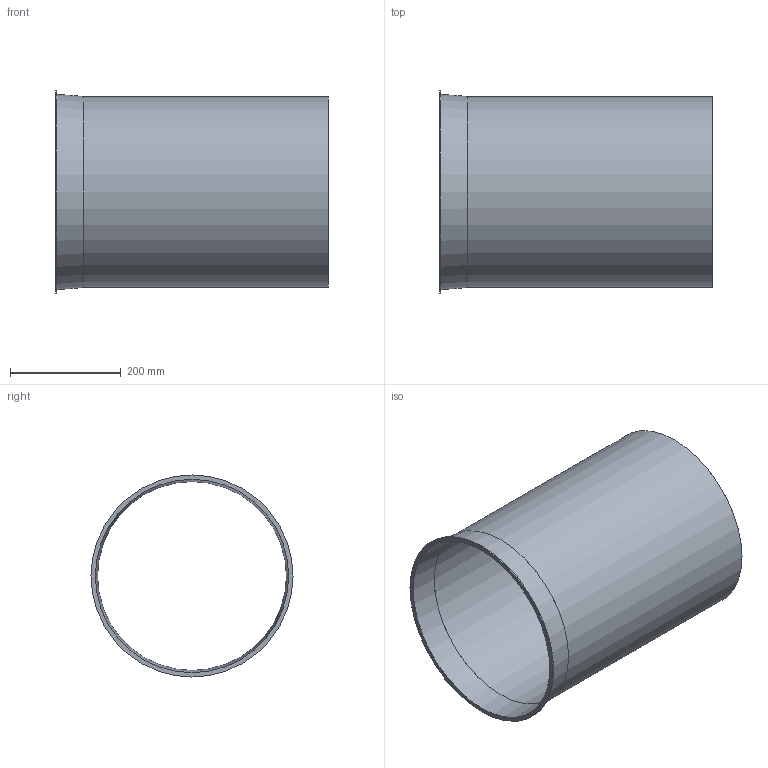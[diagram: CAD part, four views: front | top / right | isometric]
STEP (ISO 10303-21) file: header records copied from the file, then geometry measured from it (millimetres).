
FILE_DESCRIPTION((''),'2;1');
FILE_NAME('U:\Wolfgang\Marcel-3D\fertig\Kapitel 1\3511007.stp','2010-05-31T11:42:02',('TK2'),(''),'Autodesk Inventor 2010','Autodesk Inventor 2010','');
FILE_SCHEMA(('AUTOMOTIVE_DESIGN { 1 0 10303 214 1 1 1 1 }'));
Length unit declared in the file: millimetre
Products named in the file (1): 3511007
Bounding box: 493 x 365 x 365 mm (x, y, z)
Volume: 1077514 mm3; surface area: 1081950.9 mm2
Topology: 1 solids, 1 shells, 8 faces, 14 edges, 9 vertices
Faces by surface type: cylinder 3, plane 3, cone 2
Full cylindrical faces by diameter (mm): 341 x1, 345 x1, 365 x1
Entity records: 194 total; most frequent: DIRECTION 34, CARTESIAN_POINT 25, AXIS2_PLACEMENT_3D 17, ORIENTED_EDGE 16, EDGE_LOOP 16, VERTEX_POINT 8, CIRCLE 8, EDGE_CURVE 8
